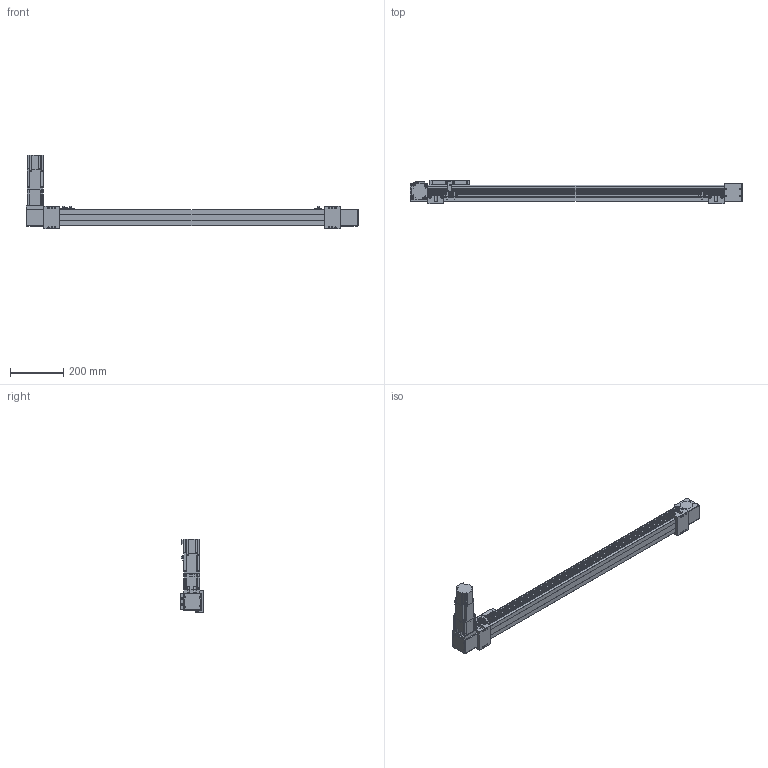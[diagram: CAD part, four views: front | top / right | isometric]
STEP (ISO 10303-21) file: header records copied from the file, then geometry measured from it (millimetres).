
FILE_DESCRIPTION(/* description */ ('STEP AP203'),/* implementation_level */ '2;1');
FILE_NAME(/* name */ 'SK60-P13-S950-BL-T40-C1-N(0)',/* time_stamp */ '2023-04-06T03:36:28+02:00',/* author */ ('License CC BY-ND 4.0'),/* organization */ ('CADENAS'),/* preprocessor_version */ 'ST-DEVELOPER v19.3',/* originating_system */ 'PARTsolutions',/* authorisation */ ' ');
FILE_SCHEMA (('CONFIG_CONTROL_DESIGN'));
Length unit declared in the file: millimetre
Products named in the file (11): SK60-P13-S950-BL-T40-C1-N(0); PSC140-sensor; SK60-S450_seat; SK60-S450-BL-C1_slider; SK60_body3; SK60_body6; SK60-BL_body2; T40-p1; SK60_body5; SK60_body4; SK60-S950-BL-C1_body
Assembly tree (17 placements, depth 2):
  SK60-P13-S950-BL-T40-C1-N(0)
    PSC140-sensor  x3
    SK60-S450_seat  x2
    SK60-S450-BL-C1_slider
    SK60_body3  x3
    SK60_body6  x2
    SK60-BL_body2  x2
    T40-p1
    SK60_body5
    SK60_body4
    SK60-S950-BL-C1_body
Bounding box: 1250 x 90 x 278.2 mm (x, y, z)
Volume: 4821345.8 mm3; surface area: 649306.6 mm2
Topology: 17 solids, 21 shells, 834 faces, 2109 edges, 1394 vertices
Faces by surface type: plane 544, cylinder 266, cone 22, torus 2
Full cylindrical faces by diameter (mm): 2.8 x3, 3.3 x4, 4.2 x8, 4.5 x26, 4.6 x3, 4.917 x16, 5 x2, 5.478 x4, 5.5 x19, 6.5 x4, 8 x4, 8.5 x4, 9.988 x4, 10 x8, 13.556 x1, 14 x1, 14.586 x1, 19.692 x1, 38.432 x2, 43 x1, 44 x3, 47 x2, 50 x2
Entity records: 19371 total; most frequent: DIRECTION 3292, CARTESIAN_POINT 3289, ORIENTED_EDGE 3050, EDGE_CURVE 1525, AXIS2_PLACEMENT_3D 1100, LINE 1092, VECTOR 1092, VERTEX_POINT 1077
